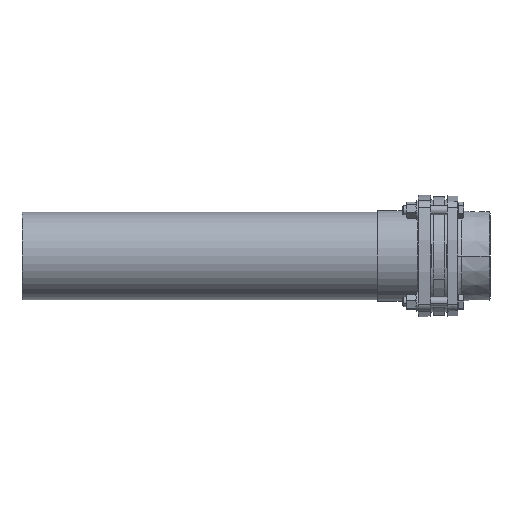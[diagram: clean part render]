
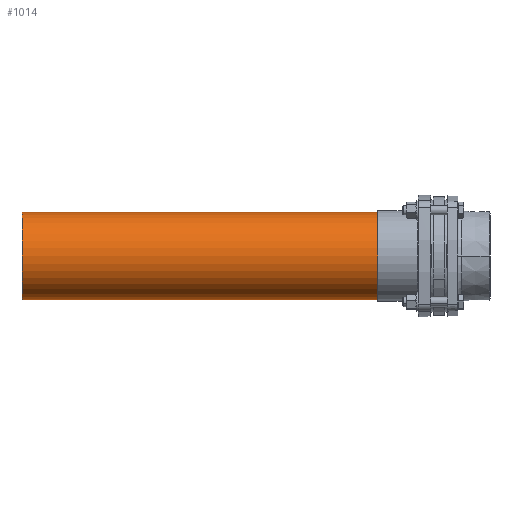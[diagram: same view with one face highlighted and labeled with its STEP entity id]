
A CAD part, front view. The second image highlights one B-rep face of the part: STEP entity #1014.
In plain terms, the highlighted cylindrical face has radius 55.25 mm (diameter 110.5 mm), a partial arc.
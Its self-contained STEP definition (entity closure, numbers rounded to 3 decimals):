
#72 = EDGE_LOOP ( 'NONE', ( #674, #675, #676, #677 ) ) ;
#674 = ORIENTED_EDGE ( 'NONE', *, *, #8463, .F. ) ;
#675 = ORIENTED_EDGE ( 'NONE', *, *, #5437, .F. ) ;
#676 = ORIENTED_EDGE ( 'NONE', *, *, #8461, .T. ) ;
#677 = ORIENTED_EDGE ( 'NONE', *, *, #5468, .T. ) ;
#1014 = ADVANCED_FACE ( 'NONE', ( #4073 ), #4076, .T. ) ;
#4063 = DIRECTION ( 'NONE',  ( -1., 0., 0. ) ) ;
#4073 = FACE_OUTER_BOUND ( 'NONE', #72, .T. ) ;
#4074 = CARTESIAN_POINT ( 'NONE',  ( -18., 0., 0. ) ) ;
#4076 = CYLINDRICAL_SURFACE ( 'NONE', #4461, 55.25 ) ;
#4077 = DIRECTION ( 'NONE',  ( 0., 0., 1. ) ) ;
#4461 = AXIS2_PLACEMENT_3D ( 'NONE', #4074, #4063, #4077 ) ;
#5437 = EDGE_CURVE ( 'NONE', #9406, #9409, #10771, .T. ) ;
#5468 = EDGE_CURVE ( 'NONE', #9402, #9403, #10837, .T. ) ;
#6919 = LINE ( 'NONE', #6926, #11596 ) ;
#6926 = CARTESIAN_POINT ( 'NONE',  ( -18., 0., 55.25 ) ) ;
#6930 = CARTESIAN_POINT ( 'NONE',  ( -18., 0., -55.25 ) ) ;
#6934 = DIRECTION ( 'NONE',  ( -1., 0., 0. ) ) ;
#6937 = LINE ( 'NONE', #6930, #11594 ) ;
#6941 = DIRECTION ( 'NONE',  ( -1., 0., 0. ) ) ;
#7734 = CARTESIAN_POINT ( 'NONE',  ( -518., 0., 55.25 ) ) ;
#7735 = CARTESIAN_POINT ( 'NONE',  ( -518., 0., -55.25 ) ) ;
#7738 = CARTESIAN_POINT ( 'NONE',  ( -18., 0., 55.25 ) ) ;
#7741 = CARTESIAN_POINT ( 'NONE',  ( -18., 0., -55.25 ) ) ;
#8461 = EDGE_CURVE ( 'NONE', #9406, #9402, #6919, .T. ) ;
#8463 = EDGE_CURVE ( 'NONE', #9409, #9403, #6937, .T. ) ;
#9402 = VERTEX_POINT ( 'NONE', #7734 ) ;
#9403 = VERTEX_POINT ( 'NONE', #7735 ) ;
#9406 = VERTEX_POINT ( 'NONE', #7738 ) ;
#9409 = VERTEX_POINT ( 'NONE', #7741 ) ;
#10771 = CIRCLE ( 'NONE', #10776, 55.25 ) ;
#10776 = AXIS2_PLACEMENT_3D ( 'NONE', #11156, #11157, #11158 ) ;
#10837 = CIRCLE ( 'NONE', #10843, 55.25 ) ;
#10843 = AXIS2_PLACEMENT_3D ( 'NONE', #11249, #11250, #11251 ) ;
#11156 = CARTESIAN_POINT ( 'NONE',  ( -18., 0., 0. ) ) ;
#11157 = DIRECTION ( 'NONE',  ( 1., 0., 0. ) ) ;
#11158 = DIRECTION ( 'NONE',  ( 0., 0., -1. ) ) ;
#11249 = CARTESIAN_POINT ( 'NONE',  ( -518., 0., 0. ) ) ;
#11250 = DIRECTION ( 'NONE',  ( 1., 0., 0. ) ) ;
#11251 = DIRECTION ( 'NONE',  ( 0., 0., -1. ) ) ;
#11594 = VECTOR ( 'NONE', #6941, 1000. ) ;
#11596 = VECTOR ( 'NONE', #6934, 1000. ) ;
